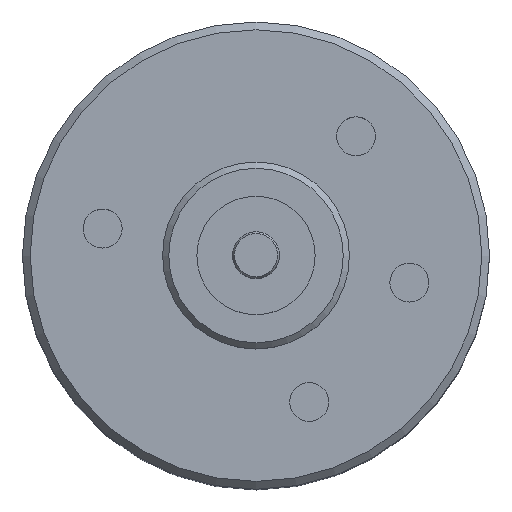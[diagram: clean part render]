
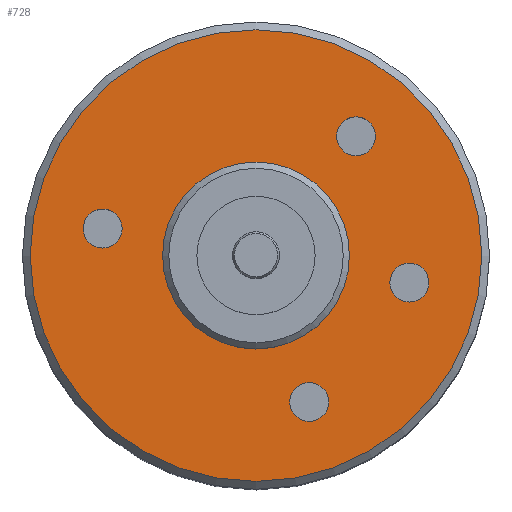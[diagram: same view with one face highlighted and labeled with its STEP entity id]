
A CAD part, top view. The second image highlights one B-rep face of the part: STEP entity #728.
In plain terms, the highlighted planar face has unit normal (0, 0, 1).
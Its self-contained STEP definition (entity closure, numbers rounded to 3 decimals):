
#641=PLANE('',#2089);
#728=ADVANCED_FACE('',(#876,#877,#878,#879,#880,#881),#641,.T.);
#876=FACE_BOUND('',#977,.T.);
#877=FACE_BOUND('',#978,.T.);
#878=FACE_BOUND('',#979,.T.);
#879=FACE_BOUND('',#980,.T.);
#880=FACE_BOUND('',#981,.T.);
#881=FACE_BOUND('',#982,.T.);
#977=EDGE_LOOP('',(#1159));
#978=EDGE_LOOP('',(#1160));
#979=EDGE_LOOP('',(#1161));
#980=EDGE_LOOP('',(#1162));
#981=EDGE_LOOP('',(#1163));
#982=EDGE_LOOP('',(#1164));
#1159=ORIENTED_EDGE('',*,*,#1796,.F.);
#1160=ORIENTED_EDGE('',*,*,#1797,.T.);
#1161=ORIENTED_EDGE('',*,*,#1798,.T.);
#1162=ORIENTED_EDGE('',*,*,#1799,.T.);
#1163=ORIENTED_EDGE('',*,*,#1800,.T.);
#1164=ORIENTED_EDGE('',*,*,#1801,.T.);
#1624=VERTEX_POINT('',#2677);
#1625=VERTEX_POINT('',#2679);
#1626=VERTEX_POINT('',#2681);
#1627=VERTEX_POINT('',#2683);
#1628=VERTEX_POINT('',#2685);
#1629=VERTEX_POINT('',#2687);
#1796=EDGE_CURVE('',#1624,#1624,#2030,.T.);
#1797=EDGE_CURVE('',#1625,#1625,#2031,.T.);
#1798=EDGE_CURVE('',#1626,#1626,#2032,.T.);
#1799=EDGE_CURVE('',#1627,#1627,#2033,.T.);
#1800=EDGE_CURVE('',#1628,#1628,#2034,.T.);
#1801=EDGE_CURVE('',#1629,#1629,#2035,.T.);
#2030=CIRCLE('',#2083,3.);
#2031=CIRCLE('',#2084,0.625);
#2032=CIRCLE('',#2085,0.625);
#2033=CIRCLE('',#2086,0.625);
#2034=CIRCLE('',#2087,0.625);
#2035=CIRCLE('',#2088,7.25);
#2083=AXIS2_PLACEMENT_3D('',#2676,#2254,#2255);
#2084=AXIS2_PLACEMENT_3D('',#2678,#2256,#2257);
#2085=AXIS2_PLACEMENT_3D('',#2680,#2258,#2259);
#2086=AXIS2_PLACEMENT_3D('',#2682,#2260,#2261);
#2087=AXIS2_PLACEMENT_3D('',#2684,#2262,#2263);
#2088=AXIS2_PLACEMENT_3D('',#2686,#2264,#2265);
#2089=AXIS2_PLACEMENT_3D('',#2688,#2266,#2267);
#2254=DIRECTION('',(0.,0.,1.));
#2255=DIRECTION('',(1.,0.,0.));
#2256=DIRECTION('',(0.,0.,-1.));
#2257=DIRECTION('',(-1.,0.,0.));
#2258=DIRECTION('',(0.,0.,-1.));
#2259=DIRECTION('',(-1.,0.,0.));
#2260=DIRECTION('',(0.,0.,-1.));
#2261=DIRECTION('',(-1.,0.,0.));
#2262=DIRECTION('',(0.,0.,-1.));
#2263=DIRECTION('',(-1.,0.,0.));
#2264=DIRECTION('',(0.,0.,1.));
#2265=DIRECTION('',(1.,0.,0.));
#2266=DIRECTION('',(0.,0.,1.));
#2267=DIRECTION('',(1.,0.,0.));
#2676=CARTESIAN_POINT('',(0.,0.,0.));
#2677=CARTESIAN_POINT('',(3.,0.,0.));
#2678=CARTESIAN_POINT('',(4.924,-0.868,0.));
#2679=CARTESIAN_POINT('',(4.299,-0.868,0.));
#2680=CARTESIAN_POINT('',(3.214,3.83,0.));
#2681=CARTESIAN_POINT('',(2.589,3.83,0.));
#2682=CARTESIAN_POINT('',(1.71,-4.698,0.));
#2683=CARTESIAN_POINT('',(1.085,-4.698,0.));
#2684=CARTESIAN_POINT('',(-4.924,0.868,0.));
#2685=CARTESIAN_POINT('',(-5.549,0.868,0.));
#2686=CARTESIAN_POINT('',(0.,0.,0.));
#2687=CARTESIAN_POINT('',(7.25,0.,0.));
#2688=CARTESIAN_POINT('',(7.5,0.,0.));
